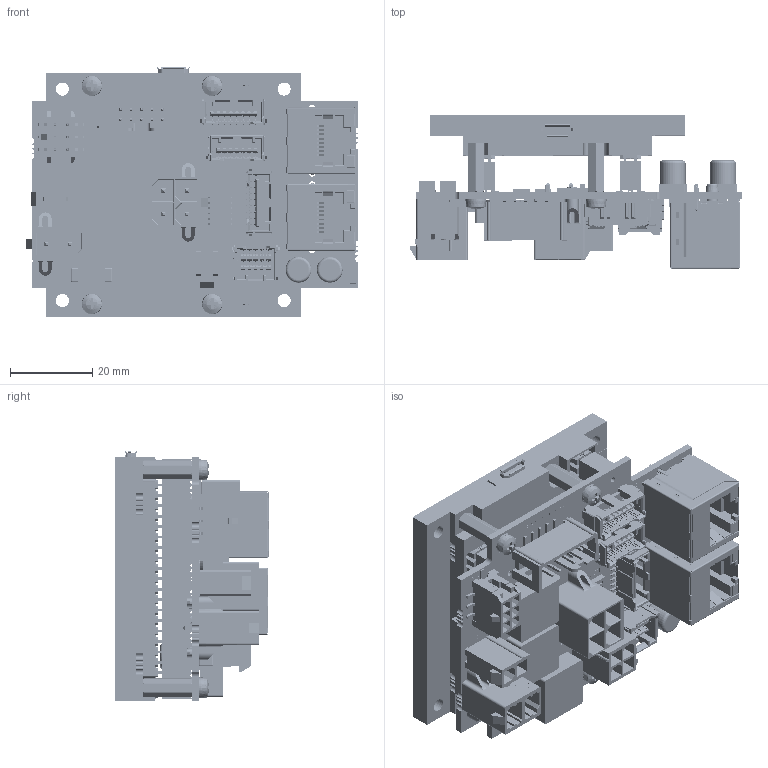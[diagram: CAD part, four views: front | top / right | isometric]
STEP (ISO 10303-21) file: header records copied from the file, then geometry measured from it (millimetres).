
FILE_DESCRIPTION((''),'2;1');
FILE_NAME('EPOS4_POWERCB_ETHERCAT_ASM','2018-05-18T',('mmagrari'),(''),'CREO PARAMETRIC BY PTC INC, 2017020','CREO PARAMETRIC BY PTC INC, 2017020','');
FILE_SCHEMA(('CONFIG_CONTROL_DESIGN'));
Products named in the file (66): EPOS4_POWERCB_PCB_ETHERCAT; EPOS4_POWERCB_PCB_SITO_ETHERCAT; EPOS4_POWERCB_PCB_SIBO_ETHERCAT; SSM_116_L_DV_LC_BODY; C_137_0116; SSM_116_L_DV_LC_ASM; SSM_123_L_DV_LC_BODY; C_137_0123; SSM_123_L_DV_LC_ASM; 1720650002; 1720650004; 039281023; 039281043; 5025840770; 5025840870; 5031541090; 3M_N2510-6V0C-RB; 430450618; DIP_SWITCH_2P_6; CHOKE_13-6MM; ELKO_F80; DO-214AA; FUSE; BASE_1_S; SHIELDING_1_S; ASSEM1_S_ASM; 74990101210_SINGLE_ASM; IC_TQFN50-9X9; LLP8; LED-0606_DUAL_SOCKEL_2; LED-0606-DUAL_GRUEN_3; LED-0606-DUAL_ROT_3; LED-0606-DUAL_ASM_1_ASM; DISTANZBOLZEN_M2-5_12_IA; 1154192_STAHL_4_8; 1275607_FEDERSTAHL; SCHRAUBE_M2-5_6_ASM; EPOS4_POWERMODULE_PCB; EPOS4_POWERMODULE_PCB_SITO; EPOS4_POWERMODULE_PCB_SIBO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
Assembly tree (95 placements, depth 4):
  EPOS4_POWERCB_ETHERCAT_ASM
    EPOS4_POWERCB_PCB_ETHERCAT
    EPOS4_POWERCB_PCB_SITO_ETHERCAT
    EPOS4_POWERCB_PCB_SIBO_ETHERCAT
    SSM_116_L_DV_LC_ASM
      SSM_116_L_DV_LC_BODY
      C_137_0116
    SSM_123_L_DV_LC_ASM
      SSM_123_L_DV_LC_BODY
      C_137_0123
    1720650002
    1720650004
    039281023
    039281043
    5025840770
    5025840870  x2
    5031541090
    3M_N2510-6V0C-RB
    430450618
    DIP_SWITCH_2P_6
    CHOKE_13-6MM  x3
    ELKO_F80  x4
    DO-214AA  x2
    FUSE
    74990101210_SINGLE_ASM  x2
      ASSEM1_S_ASM
        BASE_1_S
        SHIELDING_1_S
    IC_TQFN50-9X9
    LLP8  x2
    LED-0606-DUAL_ASM_1_ASM
      LED-0606_DUAL_SOCKEL_2
      LED-0606-DUAL_GRUEN_3
      LED-0606-DUAL_ROT_3
    DISTANZBOLZEN_M2-5_12_IA  x4
    SCHRAUBE_M2-5_6_ASM  x4
      1154192_STAHL_4_8
      1275607_FEDERSTAHL
    EPOS4_POWERMODULE_ASM
      EPOS4_POWERMODULE_PCB
      EPOS4_POWERMODULE_PCB_SITO
      EPOS4_POWERMODULE_PCB_SIBO
      EXCLUSION_ZONE_TOP
      EXCLUSION_ZONE_BOTTOM
      USB_MICRO
      MOSFET_TDSON-8  x6
      IC_PDSO_G56
      IC_7X7X1
      CAP_C3225  x10
      TSM_116_01_L_DV_A_ASM
        TSM_116_01_L_DV_A_BODY
        T_1S6_16__01_16_DV_
      TSM_123_01_L_DV_A_ASM
        TSM_123_01_L_DV_A_BODY
        T_1S6_16__01_23_DV_
      IC_TQFP100-14X14
      LED-0606-DUAL_ASM
        LED-0606_DUAL_SOCKEL
        LED-0606-DUAL_GRUEN
        LED-0606-DUAL_ROT
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Bounding box: 80.85 x 37.3 x 60.87 mm (x, y, z)
Volume: 59648.6 mm3; surface area: 101885.8 mm2
Topology: 144 solids, 158 shells, 19667 faces, 56300 edges, 37026 vertices
Faces by surface type: plane 17054, cylinder 2207, sphere 112, bspline 104, cone 86, torus 56, extrusion 48
Entity records: 704414 total; most frequent: CARTESIAN_POINT 102073, ORIENTED_EDGE 97626, DIRECTION 85606, PRESENTATION_STYLE_ASSIGNMENT 49399, STYLED_ITEM 49040, EDGE_CURVE 48827, CURVE_STYLE 48743, VECTOR 45178
